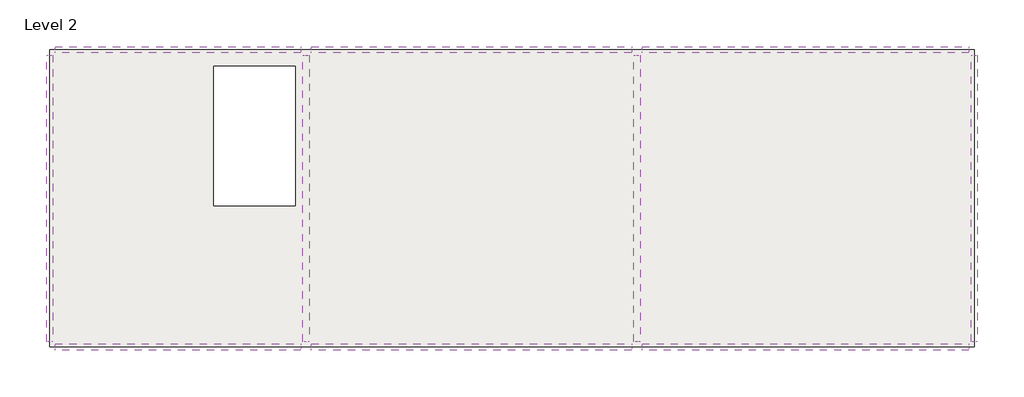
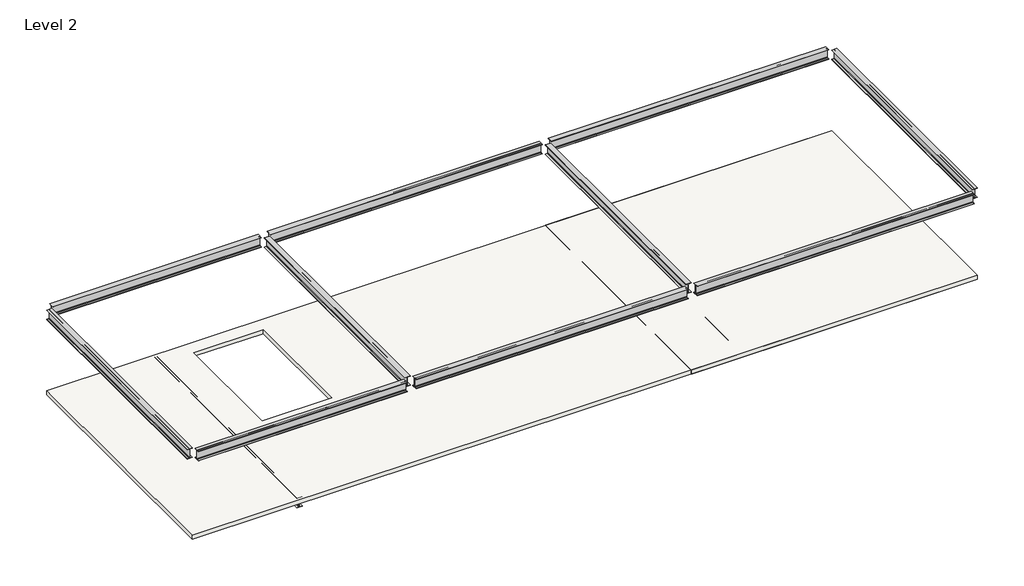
# One storey: 11 beams, 2 slabs.
"""IFC4 building model written with IfcOpenShell, lengths in millimetres."""

import ifcopenshell
import ifcopenshell.guid

model = None  # the IFC model being written
_history = None  # IfcOwnerHistory: only IFC2X3 demands one
_inside = {}  # id of a spatial element -> (the spatial element, [elements in it])
_under = {}  # id of a project, library or spatial element -> (it, [spatial elements below it])
_declared = {}  # id of a project -> (the project, [libraries it declares])
_typed = {}  # id of a type object -> (the type object, [elements of that type])
_made_of = {}  # id of a material, layer set ... -> (it, [elements and type objects made of it])


def new_model(schema):
    """Start an empty IFC model of exactly this schema.

    Asked for "IFC4X3", IfcOpenShell would pick the latest addendum, in which some entities
    have other attributes; the version numbers below select the first issue.
    IFC2X3 requires an IfcOwnerHistory on every rooted entity: one is made here for all.
    """
    global model, _history
    if schema == "IFC4X3":
        model = ifcopenshell.file(schema_version=(4, 3, 0, 0))
    else:
        model = ifcopenshell.file(schema=schema)
    _inside.clear()
    _under.clear()
    _declared.clear()
    _typed.clear()
    _made_of.clear()
    _history = None
    if model.schema == "IFC2X3":
        org = make("IfcOrganization", Name="unknown")
        user = make(
            "IfcPersonAndOrganization",
            ThePerson=make("IfcPerson", FamilyName="unknown"),
            TheOrganization=org,
        )
        app = make(
            "IfcApplication",
            ApplicationDeveloper=org,
            Version="unknown",
            ApplicationFullName="unknown",
            ApplicationIdentifier="unknown",
        )
        _history = make(
            "IfcOwnerHistory",
            OwningUser=user,
            OwningApplication=app,
            ChangeAction="ADDED",
            CreationDate=0,
        )
    return model


def make(cls, **values):
    """One entity of the class cls with the attributes given. An attribute that is None is left unset."""
    return model.create_entity(
        cls, **{name: value for name, value in values.items() if value is not None}
    )


def rooted(cls, **values):
    """An entity with a GlobalId (a new one), such as an element, a storey or a relation."""
    return make(cls, GlobalId=ifcopenshell.guid.new(), OwnerHistory=_history, **values)


def si_unit(unit_type, name, prefix=None):
    """IfcSIUnit, for example si_unit("LENGTHUNIT", "METRE", prefix="MILLI")."""
    return make("IfcSIUnit", UnitType=unit_type, Prefix=prefix, Name=name)


def assignment(units):
    """IfcUnitAssignment: the units of a project."""
    return None if units is None else make("IfcUnitAssignment", Units=units)


def point(xyz):
    """IfcCartesianPoint."""
    return None if xyz is None else make("IfcCartesianPoint", Coordinates=xyz)


def direction(xyz):
    """IfcDirection."""
    return None if xyz is None else make("IfcDirection", DirectionRatios=xyz)


def frame(location, z_axis=None, x_axis=None):
    """IfcAxis2Placement3D, a coordinate frame: its origin and axes. An axis left out is left unset."""
    return make(
        "IfcAxis2Placement3D",
        Location=point(location),
        Axis=direction(z_axis),
        RefDirection=direction(x_axis),
    )


def frame_2d(location, x_axis=None):
    """IfcAxis2Placement2D, a coordinate frame in the plane: its origin and x axis."""
    return make(
        "IfcAxis2Placement2D", Location=point(location), RefDirection=direction(x_axis)
    )


def origin():
    """The frame at (0, 0, 0) with its axes left unset."""
    return frame((0.0, 0.0, 0.0))


def place(relative_to, where):
    """IfcLocalPlacement: puts the frame where relative to a parent placement (None: the world)."""
    return make(
        "IfcLocalPlacement", PlacementRelTo=relative_to, RelativePlacement=where
    )


def context(
    kind, dimensions, precision=None, world=None, true_north=None, identifier=None
):
    """IfcGeometricRepresentationContext, for example the 3D "Model" context."""
    return make(
        "IfcGeometricRepresentationContext",
        ContextIdentifier=identifier,
        ContextType=kind,
        CoordinateSpaceDimension=dimensions,
        Precision=precision,
        WorldCoordinateSystem=world,
        TrueNorth=true_north,
    )


def project(units=None, contexts=None):
    """IfcProject with its units and contexts."""
    return rooted(
        "IfcProject",
        Name="project",
        RepresentationContexts=contexts,
        UnitsInContext=assignment(units),
    )


def spatial(cls, under=None, at=None, **own):
    """A site, building, storey or space (cls), placed at a placement, below another one or the project."""
    s = rooted(cls, ObjectPlacement=at, **own)
    if under is not None:
        _under.setdefault(under.id(), (under, []))[1].append(s)
    return s


def polyline(points):
    """IfcPolyline through the points."""
    return make("IfcPolyline", Points=[point(p) for p in points])


def circle_curve(where, radius):
    """IfcCircle in the frame where."""
    return make("IfcCircle", Position=where, Radius=radius)


def trimmed(basis, trim1, trim2, sense, master):
    """IfcTrimmedCurve: the piece of a basis curve between two trims."""
    return make(
        "IfcTrimmedCurve",
        BasisCurve=basis,
        Trim1=trim1,
        Trim2=trim2,
        SenseAgreement=sense,
        MasterRepresentation=master,
    )


def segment(curve, same_sense, transition):
    """IfcCompositeCurveSegment."""
    return make(
        "IfcCompositeCurveSegment",
        Transition=transition,
        SameSense=same_sense,
        ParentCurve=curve,
    )


def composite_curve(segments, self_intersect=None):
    """IfcCompositeCurve: segments joined end to end."""
    return make("IfcCompositeCurve", Segments=segments, SelfIntersect=self_intersect)


def outline(outer, holes=None, kind="AREA"):
    """IfcArbitraryClosedProfileDef: a profile drawn as a closed curve; with holes, ...WithVoids."""
    if holes is None:
        return make("IfcArbitraryClosedProfileDef", ProfileType=kind, OuterCurve=outer)
    return make(
        "IfcArbitraryProfileDefWithVoids",
        ProfileType=kind,
        OuterCurve=outer,
        InnerCurves=holes,
    )


def extrude(swept, where, along, depth):
    """IfcExtrudedAreaSolid: the profile swept, set in the frame where, extruded along a direction by depth."""
    return make(
        "IfcExtrudedAreaSolid",
        SweptArea=swept,
        Position=where,
        ExtrudedDirection=direction(along),
        Depth=depth,
    )


def shape(context_of_items, identifier, shape_type, items):
    """IfcShapeRepresentation: the items that make up one representation, for example the "Body"."""
    return make(
        "IfcShapeRepresentation",
        ContextOfItems=context_of_items,
        RepresentationIdentifier=identifier,
        RepresentationType=shape_type,
        Items=items,
    )


def source(mapping_origin, context_of_items, identifier, shape_type, items):
    """IfcRepresentationMap: a shape defined once, which mapped items show again and again."""
    return make(
        "IfcRepresentationMap",
        MappingOrigin=mapping_origin,
        MappedRepresentation=shape(context_of_items, identifier, shape_type, items),
    )


def transform(
    local_origin,
    x_axis=None,
    y_axis=None,
    z_axis=None,
    scale=None,
    scale2=None,
    scale3=None,
    uniform=True,
):
    """IfcCartesianTransformationOperator3D, or its non-uniform kind. x_axis, y_axis, z_axis: its Axis1, 2, 3."""
    if uniform:
        return make(
            "IfcCartesianTransformationOperator3D",
            Axis1=direction(x_axis),
            Axis2=direction(y_axis),
            LocalOrigin=point(local_origin),
            Scale=scale,
            Axis3=direction(z_axis),
        )
    return make(
        "IfcCartesianTransformationOperator3DnonUniform",
        Axis1=direction(x_axis),
        Axis2=direction(y_axis),
        LocalOrigin=point(local_origin),
        Scale=scale,
        Axis3=direction(z_axis),
        Scale2=scale2,
        Scale3=scale3,
    )


def mapped(mapping_source, mapping_target):
    """IfcMappedItem: shows the shape of a source again, moved by a transform."""
    return make(
        "IfcMappedItem", MappingSource=mapping_source, MappingTarget=mapping_target
    )


def made_of(thing, what):
    """Note that an element or type object is made of a material, layer set ...; save() writes the relation."""
    if what is not None:
        _made_of.setdefault(what.id(), (what, []))[1].append(thing)
    return thing


def element(
    cls,
    number,
    at=None,
    inside=None,
    cuts=None,
    type_object=None,
    material=None,
    context=None,
    identifier="Body",
    shape_type=None,
    held_by="IfcProductDefinitionShape",
    body=None,
    shapes=None,
    **own,
):
    """One element of the class cls, such as IfcWall. Its Tag is "e" and its number.

    at: its placement. inside: the storey or other place that contains it. cuts: it is an
    opening in that element (IfcRelVoidsElement). A single representation is given by context,
    identifier, shape_type and body (its items); several are given by shapes. held_by: the class
    of the entity that holds the representations. save() writes the other relations.
    """
    e = rooted(cls, Tag="e%d" % number, ObjectPlacement=at, **own)
    if body is not None:
        shapes = [shape(context, identifier, shape_type, body)]
    if shapes is not None:
        e.Representation = make(held_by, Representations=shapes)
    if inside is not None:
        _inside.setdefault(inside.id(), (inside, []))[1].append(e)
    if cuts is not None:
        rooted(
            "IfcRelVoidsElement", RelatingBuildingElement=cuts, RelatedOpeningElement=e
        )
    if type_object is not None:
        _typed.setdefault(type_object.id(), (type_object, []))[1].append(e)
    return made_of(e, material)


def aggregate(whole, parts):
    """IfcRelAggregates: a whole, such as a stair, and the parts it consists of."""
    return rooted("IfcRelAggregates", RelatingObject=whole, RelatedObjects=parts)


def save(model, path):
    """Write the relations noted so far, then the file.

    IfcRelAggregates (storeys below a building ...), IfcRelContainedInSpatialStructure (elements
    in a storey), IfcRelDefinesByType, IfcRelAssociatesMaterial and IfcRelDeclares: one each for
    every whole, place, type object, material and project.
    """
    for whole, parts in _under.values():
        aggregate(whole, parts)
    for where, things in _inside.values():
        rooted(
            "IfcRelContainedInSpatialStructure",
            RelatedElements=things,
            RelatingStructure=where,
        )
    for kind, things in _typed.values():
        rooted("IfcRelDefinesByType", RelatedObjects=things, RelatingType=kind)
    for what, things in _made_of.values():
        rooted("IfcRelAssociatesMaterial", RelatedObjects=things, RelatingMaterial=what)
    for by, libraries in _declared.values():
        rooted("IfcRelDeclares", RelatingContext=by, RelatedDefinitions=libraries)
    model.write(path)


def w_wide_flange_w12x26_3f871b78(model_context):
    return source(origin(), model_context, "Body", "SweptSolid", [
        extrude(outline(composite_curve([segment(polyline([(82.4011719, -145.5539063), (82.4011719, -155.178125), (-82.4011719, -155.178125), (-82.4011719, -145.5539063), (-20.2902344, -145.5539063)]), True, "CONTINUOUS"), segment(trimmed(circle_curve(frame_2d((-20.2902344, -128.190625)), 17.3632812), [point((-20.2902344, -145.5539063))], [point((-2.9269531, -128.190625))], True, "CARTESIAN"), True, "CONTINUOUS"), segment(polyline([(-2.9269531, -128.190625), (-2.9269531, 128.190625)]), True, "CONTINUOUS"), segment(trimmed(circle_curve(frame_2d((-20.2902344, 128.190625)), 17.3632812), [point((-2.9269531, 128.190625))], [point((-20.2902344, 145.5539062))], True, "CARTESIAN"), True, "CONTINUOUS"), segment(polyline([(-20.2902344, 145.5539062), (-82.4011719, 145.5539062), (-82.4011719, 155.178125), (82.4011719, 155.178125), (82.4011719, 145.5539062), (20.2902344, 145.5539062)]), True, "CONTINUOUS"), segment(trimmed(circle_curve(frame_2d((20.2902344, 128.190625)), 17.3632812), [point((20.2902344, 145.5539062))], [point((2.9269531, 128.190625))], True, "CARTESIAN"), True, "CONTINUOUS"), segment(polyline([(2.9269531, 128.190625), (2.9269531, -128.190625)]), True, "CONTINUOUS"), segment(trimmed(circle_curve(frame_2d((20.2902344, -128.190625)), 17.3632812), [point((2.9269531, -128.190625))], [point((20.2902344, -145.5539063))], True, "CARTESIAN"), True, "CONTINUOUS"), segment(polyline([(20.2902344, -145.5539063), (82.4011719, -145.5539063)]), True, "CONTINUOUS")], self_intersect=False)), frame((-3219.9874869, 0.0, 0.0), z_axis=(1.0, 0.0, 0.0), x_axis=(0.0, 1.0, 0.0)), (0.0, 0.0, 1.0), 6439.9749737),
    ])


def w_wide_flange_w12x26_4810f4f7(model_context):
    return source(origin(), model_context, "Body", "SweptSolid", [
        extrude(outline(composite_curve([segment(polyline([(82.4011719, -145.5539063), (82.4011719, -155.178125), (-82.4011719, -155.178125), (-82.4011719, -145.5539063), (-20.2902344, -145.5539063)]), True, "CONTINUOUS"), segment(trimmed(circle_curve(frame_2d((-20.2902344, -128.190625)), 17.3632812), [point((-20.2902344, -145.5539063))], [point((-2.9269531, -128.190625))], True, "CARTESIAN"), True, "CONTINUOUS"), segment(polyline([(-2.9269531, -128.190625), (-2.9269531, 128.190625)]), True, "CONTINUOUS"), segment(trimmed(circle_curve(frame_2d((-20.2902344, 128.190625)), 17.3632812), [point((-2.9269531, 128.190625))], [point((-20.2902344, 145.5539062))], True, "CARTESIAN"), True, "CONTINUOUS"), segment(polyline([(-20.2902344, 145.5539062), (-82.4011719, 145.5539062), (-82.4011719, 155.178125), (82.4011719, 155.178125), (82.4011719, 145.5539062), (20.2902344, 145.5539062)]), True, "CONTINUOUS"), segment(trimmed(circle_curve(frame_2d((20.2902344, 128.190625)), 17.3632812), [point((20.2902344, 145.5539062))], [point((2.9269531, 128.190625))], True, "CARTESIAN"), True, "CONTINUOUS"), segment(polyline([(2.9269531, 128.190625), (2.9269531, -128.190625)]), True, "CONTINUOUS"), segment(trimmed(circle_curve(frame_2d((20.2902344, -128.190625)), 17.3632812), [point((2.9269531, -128.190625))], [point((20.2902344, -145.5539063))], True, "CARTESIAN"), True, "CONTINUOUS"), segment(polyline([(20.2902344, -145.5539063), (82.4011719, -145.5539063)]), True, "CONTINUOUS")], self_intersect=False)), frame((-3754.7312703, 0.0, 0.0), z_axis=(1.0, 0.0, 0.0), x_axis=(0.0, 1.0, 0.0)), (0.0, 0.0, 1.0), 7509.4625406),
    ])


def w_wide_flange_w12x26_0d1df96e(model_context):
    return source(origin(), model_context, "Body", "SweptSolid", [
        extrude(outline(composite_curve([segment(polyline([(82.4011719, -145.5539063), (82.4011719, -155.178125), (-82.4011719, -155.178125), (-82.4011719, -145.5539063), (-20.2902344, -145.5539063)]), True, "CONTINUOUS"), segment(trimmed(circle_curve(frame_2d((-20.2902344, -128.190625)), 17.3632812), [point((-20.2902344, -145.5539063))], [point((-2.9269531, -128.190625))], True, "CARTESIAN"), True, "CONTINUOUS"), segment(polyline([(-2.9269531, -128.190625), (-2.9269531, 128.190625)]), True, "CONTINUOUS"), segment(trimmed(circle_curve(frame_2d((-20.2902344, 128.190625)), 17.3632812), [point((-2.9269531, 128.190625))], [point((-20.2902344, 145.5539062))], True, "CARTESIAN"), True, "CONTINUOUS"), segment(polyline([(-20.2902344, 145.5539062), (-82.4011719, 145.5539062), (-82.4011719, 155.178125), (82.4011719, 155.178125), (82.4011719, 145.5539062), (20.2902344, 145.5539062)]), True, "CONTINUOUS"), segment(trimmed(circle_curve(frame_2d((20.2902344, 128.190625)), 17.3632812), [point((20.2902344, 145.5539062))], [point((2.9269531, 128.190625))], True, "CARTESIAN"), True, "CONTINUOUS"), segment(polyline([(2.9269531, 128.190625), (2.9269531, -128.190625)]), True, "CONTINUOUS"), segment(trimmed(circle_curve(frame_2d((20.2902344, -128.190625)), 17.3632812), [point((2.9269531, -128.190625))], [point((20.2902344, -145.5539063))], True, "CARTESIAN"), True, "CONTINUOUS"), segment(polyline([(20.2902344, -145.5539063), (82.4011719, -145.5539063)]), True, "CONTINUOUS")], self_intersect=False)), frame((-4196.8125131, 0.0, 0.0), z_axis=(1.0, 0.0, 0.0), x_axis=(0.0, 1.0, 0.0)), (0.0, 0.0, 1.0), 8393.6250263),
    ])


def w_wide_flange_w12x26_08aea776(model_context):
    return source(origin(), model_context, "Body", "SweptSolid", [
        extrude(outline(composite_curve([segment(polyline([(82.4011719, -145.5539063), (82.4011719, -155.178125), (-82.4011719, -155.178125), (-82.4011719, -145.5539063), (-20.2902344, -145.5539063)]), True, "CONTINUOUS"), segment(trimmed(circle_curve(frame_2d((-20.2902344, -128.190625)), 17.3632812), [point((-20.2902344, -145.5539063))], [point((-2.9269531, -128.190625))], True, "CARTESIAN"), True, "CONTINUOUS"), segment(polyline([(-2.9269531, -128.190625), (-2.9269531, 128.190625)]), True, "CONTINUOUS"), segment(trimmed(circle_curve(frame_2d((-20.2902344, 128.190625)), 17.3632812), [point((-2.9269531, 128.190625))], [point((-20.2902344, 145.5539062))], True, "CARTESIAN"), True, "CONTINUOUS"), segment(polyline([(-20.2902344, 145.5539062), (-82.4011719, 145.5539062), (-82.4011719, 155.178125), (82.4011719, 155.178125), (82.4011719, 145.5539062), (20.2902344, 145.5539062)]), True, "CONTINUOUS"), segment(trimmed(circle_curve(frame_2d((20.2902344, 128.190625)), 17.3632812), [point((20.2902344, 145.5539062))], [point((2.9269531, 128.190625))], True, "CARTESIAN"), True, "CONTINUOUS"), segment(polyline([(2.9269531, 128.190625), (2.9269531, -128.190625)]), True, "CONTINUOUS"), segment(trimmed(circle_curve(frame_2d((20.2902344, -128.190625)), 17.3632812), [point((2.9269531, -128.190625))], [point((20.2902344, -145.5539063))], True, "CARTESIAN"), True, "CONTINUOUS"), segment(polyline([(20.2902344, -145.5539063), (82.4011719, -145.5539063)]), True, "CONTINUOUS")], self_intersect=False)), frame((-4279.9, 0.0, 0.0), z_axis=(1.0, 0.0, 0.0), x_axis=(0.0, 1.0, 0.0)), (0.0, 0.0, 1.0), 8559.8),
    ])


def w_wide_flange_w12x26_b457d077(model_context):
    return source(origin(), model_context, "Body", "SweptSolid", [
        extrude(outline(composite_curve([segment(polyline([(82.4011719, -145.5539063), (82.4011719, -155.178125), (-82.4011719, -155.178125), (-82.4011719, -145.5539063), (-20.2902344, -145.5539063)]), True, "CONTINUOUS"), segment(trimmed(circle_curve(frame_2d((-20.2902344, -128.190625)), 17.3632812), [point((-20.2902344, -145.5539063))], [point((-2.9269531, -128.190625))], True, "CARTESIAN"), True, "CONTINUOUS"), segment(polyline([(-2.9269531, -128.190625), (-2.9269531, 128.190625)]), True, "CONTINUOUS"), segment(trimmed(circle_curve(frame_2d((-20.2902344, 128.190625)), 17.3632812), [point((-2.9269531, 128.190625))], [point((-20.2902344, 145.5539062))], True, "CARTESIAN"), True, "CONTINUOUS"), segment(polyline([(-20.2902344, 145.5539062), (-82.4011719, 145.5539062), (-82.4011719, 155.178125), (82.4011719, 155.178125), (82.4011719, 145.5539062), (20.2902344, 145.5539062)]), True, "CONTINUOUS"), segment(trimmed(circle_curve(frame_2d((20.2902344, 128.190625)), 17.3632812), [point((20.2902344, 145.5539062))], [point((2.9269531, 128.190625))], True, "CARTESIAN"), True, "CONTINUOUS"), segment(polyline([(2.9269531, 128.190625), (2.9269531, -128.190625)]), True, "CONTINUOUS"), segment(trimmed(circle_curve(frame_2d((20.2902344, -128.190625)), 17.3632812), [point((2.9269531, -128.190625))], [point((20.2902344, -145.5539063))], True, "CARTESIAN"), True, "CONTINUOUS"), segment(polyline([(20.2902344, -145.5539063), (82.4011719, -145.5539063)]), True, "CONTINUOUS")], self_intersect=False)), frame((-3799.0820515, 0.0, 0.0), z_axis=(1.0, 0.0, 0.0), x_axis=(0.0, 1.0, 0.0)), (0.0, 0.0, 1.0), 7598.1641031),
    ])


model = new_model("IFC4")

# Units and contexts
model_context = context("Model", 3, world=origin())
ifc_project = project(units=[si_unit("LENGTHUNIT", "METRE", prefix="MILLI")], contexts=[model_context])

# Site, building, storey
site = spatial("IfcSite", under=ifc_project)
building = spatial("IfcBuilding", under=site)
storey = spatial("IfcBuildingStorey", under=building, Name="Level 2", Elevation=3048.0)

# Beams
placement = place(None, origin())
w_wide_flange_w12x26_shape = w_wide_flange_w12x26_3f871b78(model_context)
element("IfcBeam", 1, ObjectType="W-Wide Flange : W12X26", at=placement, inside=storey, context=model_context, shape_type="MappedRepresentation", body=[
    mapped(w_wide_flange_w12x26_shape, transform((-18444.2117074, 20379.1714933, 5636.021875), x_axis=(1.0, 0.0, 0.0), y_axis=(0.0, 1.0, 0.0), z_axis=(0.0, 0.0, 1.0))),
])
element("IfcBeam", 2, ObjectType="W-Wide Flange : W12X26", at=placement, inside=storey, context=model_context, shape_type="MappedRepresentation", body=[
    mapped(w_wide_flange_w12x26_shape, transform((-18444.2117074, 12590.8050464, 5636.021875), x_axis=(-1.0, 0.0, 0.0), y_axis=(0.0, -1.0, 0.0), z_axis=(0.0, 0.0, 1.0))),
])
w_wide_flange_w12x26_2_shape = w_wide_flange_w12x26_4810f4f7(model_context)
element("IfcBeam", 3, ObjectType="W-Wide Flange : W12X26", at=placement, inside=storey, context=model_context, shape_type="MappedRepresentation", body=[
    mapped(w_wide_flange_w12x26_2_shape, transform((-21803.8991943, 16484.9882699, 5636.021875), x_axis=(0.0, -1.0, 0.0), y_axis=(1.0, 0.0, 0.0), z_axis=(0.0, 0.0, 1.0))),
])
element("IfcBeam", 4, ObjectType="W-Wide Flange : W12X26", at=placement, inside=storey, context=model_context, shape_type="MappedRepresentation", body=[
    mapped(w_wide_flange_w12x26_2_shape, transform((-15084.5242206, 16484.9882699, 5636.021875), x_axis=(0.0, -1.0, 0.0), y_axis=(1.0, 0.0, 0.0), z_axis=(0.0, 0.0, 1.0))),
])
element("IfcBeam", 5, ObjectType="W-Wide Flange : W12X26", at=placement, inside=storey, context=model_context, shape_type="MappedRepresentation", body=[
    mapped(w_wide_flange_w12x26_2_shape, transform((-6411.4991943, 16484.9882699, 5636.021875), x_axis=(0.0, -1.0, 0.0), y_axis=(1.0, 0.0, 0.0), z_axis=(0.0, 0.0, 1.0))),
])
element("IfcBeam", 6, ObjectType="W-Wide Flange : W12X26", at=placement, inside=storey, context=model_context, shape_type="MappedRepresentation", body=[
    mapped(w_wide_flange_w12x26_2_shape, transform((2427.7008057, 16484.9882699, 5636.021875), x_axis=(0.0, 1.0, 0.0), y_axis=(-1.0, 0.0, 0.0), z_axis=(0.0, 0.0, 1.0))),
])
w_wide_flange_w12x26_3_shape = w_wide_flange_w12x26_0d1df96e(model_context)
element("IfcBeam", 7, ObjectType="W-Wide Flange : W12X26", at=placement, inside=storey, context=model_context, shape_type="MappedRepresentation", body=[
    mapped(w_wide_flange_w12x26_3_shape, transform((-10748.0117074, 20379.1714933, 5636.021875), x_axis=(1.0, 0.0, 0.0), y_axis=(0.0, 1.0, 0.0), z_axis=(0.0, 0.0, 1.0))),
])
element("IfcBeam", 8, ObjectType="W-Wide Flange : W12X26", at=placement, inside=storey, context=model_context, shape_type="MappedRepresentation", body=[
    mapped(w_wide_flange_w12x26_3_shape, transform((-10748.0117074, 12590.8050464, 5636.021875), x_axis=(1.0, 0.0, 0.0), y_axis=(0.0, 1.0, 0.0), z_axis=(0.0, 0.0, 1.0))),
])
w_wide_flange_w12x26_4_shape = w_wide_flange_w12x26_08aea776(model_context)
element("IfcBeam", 9, ObjectType="W-Wide Flange : W12X26", at=placement, inside=storey, context=model_context, shape_type="MappedRepresentation", body=[
    mapped(w_wide_flange_w12x26_4_shape, transform((-1991.8991943, 20379.1714933, 5636.021875), x_axis=(1.0, 0.0, 0.0), y_axis=(0.0, 1.0, 0.0), z_axis=(0.0, 0.0, 1.0))),
])
element("IfcBeam", 10, ObjectType="W-Wide Flange : W12X26", at=placement, inside=storey, context=model_context, shape_type="MappedRepresentation", body=[
    mapped(w_wide_flange_w12x26_4_shape, transform((-1991.8991943, 12590.8050464, 5636.021875), x_axis=(1.0, 0.0, 0.0), y_axis=(0.0, 1.0, 0.0), z_axis=(0.0, 0.0, 1.0))),
])
w_wide_flange_w12x26_5_shape = w_wide_flange_w12x26_b457d077(model_context)
element("IfcBeam", 11, ObjectType="W-Wide Flange : W12X26", at=placement, inside=storey, context=model_context, shape_type="MappedRepresentation", body=[
    mapped(w_wide_flange_w12x26_5_shape, transform((-18444.2117074, 16484.9882699, 2892.821875), x_axis=(0.0, -1.0, 0.0), y_axis=(1.0, 0.0, 0.0), z_axis=(0.0, 0.0, 1.0))),
])

# Slabs
element("IfcSlab", 12, ObjectType="3\" LW Concrete on 2\" Metal Deck", at=placement, inside=storey, context=model_context, shape_type="SweptSolid", body=[
    extrude(outline(polyline([(2427.7008057, 20379.1714933), (2427.7008057, 12590.8050464), (-21803.8991943, 12590.8050464), (-21803.8991943, 20379.1714933), (2427.7008057, 20379.1714933)]), holes=[polyline([(-17505.2738786, 16289.165023), (-15371.6738786, 16289.165023), (-15371.6738786, 19946.765023), (-17505.2738786, 19946.765023), (-17505.2738786, 16289.165023)])]), frame((0.0, 0.0, 2921.0), z_axis=(0.0, 0.0, 1.0), x_axis=(1.0, 0.0, 0.0)), (0.0, 0.0, 1.0), 127.0),
])
element("IfcSlab", 13, ObjectType="3\" LW Concrete on 2\" Metal Deck", at=placement, inside=storey, context=model_context, shape_type="SweptSolid", body=[
    extrude(outline(polyline([(2427.7008057, 12590.8050464), (-6411.4991943, 12590.8050464), (-6411.4991943, 20379.1714933), (2427.7008057, 20379.1714933), (2427.7008057, 12590.8050464)]), holes=[polyline([(-6070.4653466, 16021.2273589), (-6070.4653466, 13125.6273589), (-4851.2653466, 13125.6273589), (-4851.2653466, 16021.2273589), (-6070.4653466, 16021.2273589)])]), frame((0.0, 0.0, 2921.0), z_axis=(0.0, 0.0, 1.0), x_axis=(1.0, 0.0, 0.0)), (0.0, 0.0, 1.0), 127.0),
])

save(model, "model.ifc")
